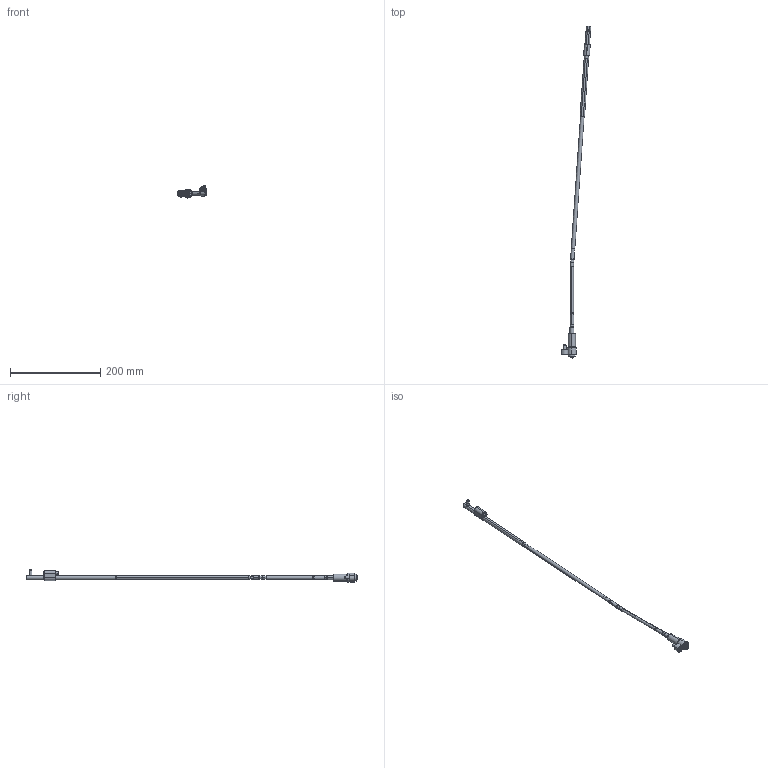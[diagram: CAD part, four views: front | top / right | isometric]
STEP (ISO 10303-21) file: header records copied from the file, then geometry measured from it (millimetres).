
FILE_DESCRIPTION (( 'STEP AP214' ), '1' );
FILE_NAME ('WL080100L-INJ 4°.STEP', '2021-03-19T15:26:49', ( '' ), ( '' ), 'SwSTEP 2.0', 'SolidWorks 2019', '' );
FILE_SCHEMA (( 'AUTOMOTIVE_DESIGN' ));
Length unit declared in the file: millimetre
Products named in the file (17): Web-WL08-A3; 1DIN912545_DIN 912 M5 x 50 --- 50C; 1DIN912616_DIN 912 M6 x 16 --- 16C; Web-WP08-1; WL080100L-INJ 4°; WL080100-C; Web-WL08-A1; Web-WL08-A2; WL080100-B_WL0800FF; 9DR2206-TOR; WL080100-B1_WL0800FF-1; 3IMAN4X2-150_con sello; WL080100-D; Web-WL08-F01; WL080100-E; Web-WL08XX-A7_OFF-WL080100-4; Web-WL08-F00.SLDPRT
Assembly tree (16 placements, depth 3):
  WL080100L-INJ 4°
    Web-WP08-1
    Web-WL08XX-A7_OFF-WL080100-4
    Web-WL08-A3
    Web-WL08-A2
    Web-WL08-A1
    WL080100-D
    WL080100-C
    WL080100-B_WL0800FF
      WL080100-B1_WL0800FF-1
      3IMAN4X2-150_con sello
    WL080100-E
    9DR2206-TOR
    Web-WL08-F00.SLDPRT
      Web-WL08-F01
      1DIN912545_DIN 912 M5 x 50 --- 50C
      1DIN912616_DIN 912 M6 x 16 --- 16C
Bounding box: 65.79 x 736.04 x 26.9 mm (x, y, z)
Volume: 57313.6 mm3; surface area: 33636.1 mm2
Topology: 15 solids, 15 shells, 424 faces, 888 edges, 516 vertices
Faces by surface type: plane 132, cylinder 128, cone 116, torus 48
Entity records: 13492 total; most frequent: DIRECTION 2218, CARTESIAN_POINT 2045, ORIENTED_EDGE 1756, AXIS2_PLACEMENT_3D 921, EDGE_CURVE 878, VERTEX_POINT 516, CIRCLE 476, EDGE_LOOP 468
